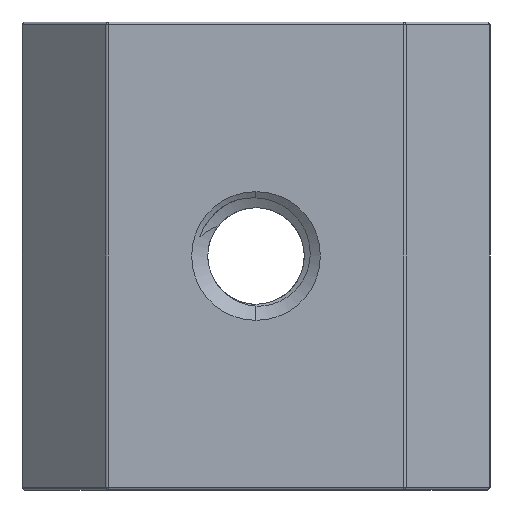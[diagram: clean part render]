
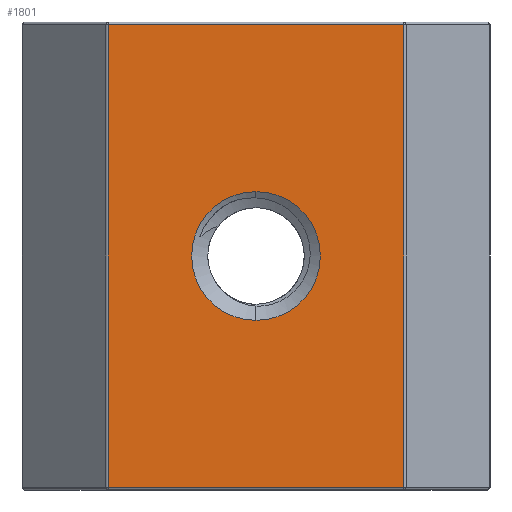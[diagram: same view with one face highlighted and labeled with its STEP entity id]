
A CAD part, front view. The second image highlights one B-rep face of the part: STEP entity #1801.
In plain terms, the highlighted planar face has unit normal (0, -1, 0).
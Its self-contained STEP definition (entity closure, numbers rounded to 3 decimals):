
#31 = LINE ( 'NONE', #3234, #2064 ) ;
#530 = CARTESIAN_POINT ( 'NONE',  ( 5.059, -3., 8. ) ) ;
#531 = CIRCLE ( 'NONE', #1181, 2.2 ) ;
#545 = EDGE_CURVE ( 'NONE', #5081, #2295, #4526, .T. ) ;
#644 = DIRECTION ( 'NONE',  ( 0., 0., 1. ) ) ;
#670 = ORIENTED_EDGE ( 'NONE', *, *, #3515, .T. ) ;
#719 = DIRECTION ( 'NONE',  ( 0., 1., 0. ) ) ;
#876 = CARTESIAN_POINT ( 'NONE',  ( 5.059, -3., 7.9 ) ) ;
#922 = EDGE_CURVE ( 'NONE', #2295, #2273, #3472, .T. ) ;
#960 = CARTESIAN_POINT ( 'NONE',  ( 0., -3., 2.2 ) ) ;
#1083 = DIRECTION ( 'NONE',  ( 1., 0., 0. ) ) ;
#1181 = AXIS2_PLACEMENT_3D ( 'NONE', #2579, #4968, #644 ) ;
#1263 = VERTEX_POINT ( 'NONE', #2277 ) ;
#1306 = EDGE_LOOP ( 'NONE', ( #1856, #670, #2230, #3391 ) ) ;
#1317 = DIRECTION ( 'NONE',  ( -1., 0., 0. ) ) ;
#1514 = CIRCLE ( 'NONE', #4309, 2.2 ) ;
#1568 = DIRECTION ( 'NONE',  ( 0., 0., 1. ) ) ;
#1617 = CARTESIAN_POINT ( 'NONE',  ( 0., -3., 0. ) ) ;
#1801 = ADVANCED_FACE ( 'NONE', ( #5013, #2671 ), #4214, .F. ) ;
#1856 = ORIENTED_EDGE ( 'NONE', *, *, #922, .T. ) ;
#1890 = EDGE_CURVE ( 'NONE', #4826, #5081, #31, .T. ) ;
#2030 = DIRECTION ( 'NONE',  ( 0., 0., 1. ) ) ;
#2064 = VECTOR ( 'NONE', #1317, 1000. ) ;
#2098 = ORIENTED_EDGE ( 'NONE', *, *, #4804, .T. ) ;
#2218 = VERTEX_POINT ( 'NONE', #960 ) ;
#2230 = ORIENTED_EDGE ( 'NONE', *, *, #1890, .T. ) ;
#2263 = DIRECTION ( 'NONE',  ( 0., 0., 1. ) ) ;
#2273 = VERTEX_POINT ( 'NONE', #2683 ) ;
#2277 = CARTESIAN_POINT ( 'NONE',  ( 0., -3., -2.2 ) ) ;
#2295 = VERTEX_POINT ( 'NONE', #2711 ) ;
#2307 = CARTESIAN_POINT ( 'NONE',  ( 5.1, -3., -7.9 ) ) ;
#2470 = VECTOR ( 'NONE', #2927, 1000. ) ;
#2494 = ORIENTED_EDGE ( 'NONE', *, *, #3062, .T. ) ;
#2579 = CARTESIAN_POINT ( 'NONE',  ( 0., -3., 0. ) ) ;
#2671 = FACE_BOUND ( 'NONE', #3038, .T. ) ;
#2683 = CARTESIAN_POINT ( 'NONE',  ( 5.059, -3., -7.9 ) ) ;
#2711 = CARTESIAN_POINT ( 'NONE',  ( -5.059, -3., -7.9 ) ) ;
#2927 = DIRECTION ( 'NONE',  ( 0., 0., -1. ) ) ;
#2956 = VECTOR ( 'NONE', #1083, 1000. ) ;
#3038 = EDGE_LOOP ( 'NONE', ( #2098, #2494 ) ) ;
#3054 = VECTOR ( 'NONE', #2030, 1000. ) ;
#3062 = EDGE_CURVE ( 'NONE', #1263, #2218, #531, .T. ) ;
#3234 = CARTESIAN_POINT ( 'NONE',  ( -8., -3., 7.9 ) ) ;
#3391 = ORIENTED_EDGE ( 'NONE', *, *, #545, .T. ) ;
#3472 = LINE ( 'NONE', #2307, #2956 ) ;
#3515 = EDGE_CURVE ( 'NONE', #2273, #4826, #3662, .T. ) ;
#3662 = LINE ( 'NONE', #530, #3054 ) ;
#3733 = CARTESIAN_POINT ( 'NONE',  ( -5.059, -3., 8. ) ) ;
#4214 = PLANE ( 'NONE',  #4620 ) ;
#4309 = AXIS2_PLACEMENT_3D ( 'NONE', #1617, #4758, #1568 ) ;
#4526 = LINE ( 'NONE', #3733, #2470 ) ;
#4620 = AXIS2_PLACEMENT_3D ( 'NONE', #5061, #719, #2263 ) ;
#4689 = CARTESIAN_POINT ( 'NONE',  ( -5.059, -3., 7.9 ) ) ;
#4758 = DIRECTION ( 'NONE',  ( 0., 1., 0. ) ) ;
#4804 = EDGE_CURVE ( 'NONE', #2218, #1263, #1514, .T. ) ;
#4826 = VERTEX_POINT ( 'NONE', #876 ) ;
#4968 = DIRECTION ( 'NONE',  ( 0., 1., 0. ) ) ;
#5013 = FACE_OUTER_BOUND ( 'NONE', #1306, .T. ) ;
#5061 = CARTESIAN_POINT ( 'NONE',  ( -8., -3., 8. ) ) ;
#5081 = VERTEX_POINT ( 'NONE', #4689 ) ;
